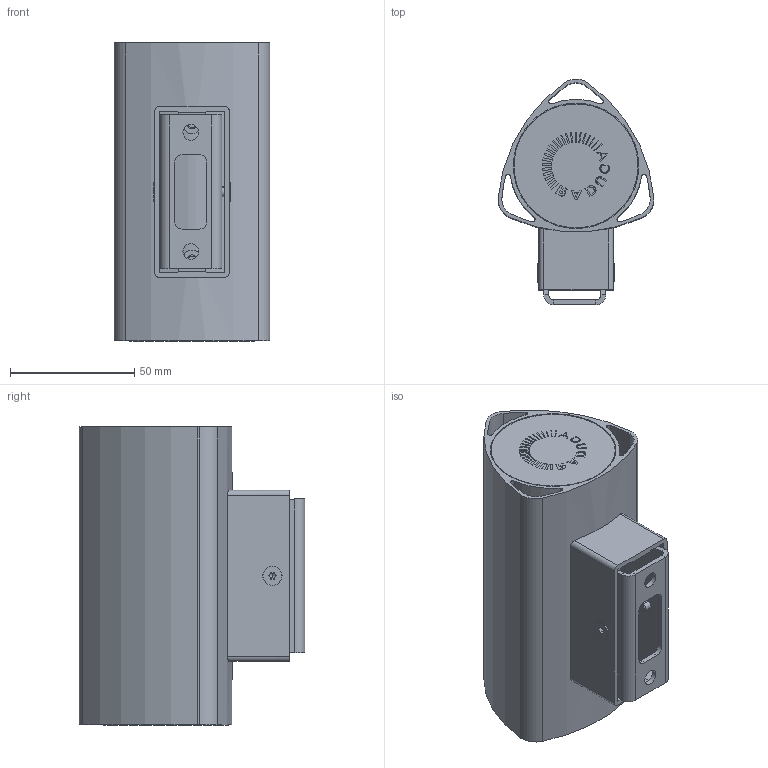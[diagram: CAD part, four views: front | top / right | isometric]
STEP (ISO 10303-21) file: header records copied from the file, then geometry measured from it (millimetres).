
FILE_DESCRIPTION (( 'STEP AP214' ), '1' );
FILE_NAME ('Ñáîðêà3.STEP', '2022-07-29T12:33:11', ( '' ), ( '' ), 'SwSTEP 2.0', 'SolidWorks 2020', '' );
FILE_SCHEMA (( 'AUTOMOTIVE_DESIGN' ));
Length unit declared in the file: millimetre
Products named in the file (7): 栺樏鋋; RAD-S-Qu-3.00.00.03 ﾊ煇鳫; RAD-S-Te-3.00.00.04 Îïîðà; socket countersunk head screw_din_DIN 7991 - M4 x 8 --- 5.6N; 栖闉罻3; RAD-S-Te-3.00.00.01 扻豵鵨_TeD-3_120洵; RAD-S-ClN-3.00.00.04 耱尻腩_娻腓獱
Assembly tree (7 placements, depth 2):
  栖闉罻3
    RAD-S-Te-3.00.00.01 扻豵鵨_TeD-3_120洵
    RAD-S-Qu-3.00.00.03 ﾊ煇鳫
    RAD-S-Te-3.00.00.04 Îïîðà
    RAD-S-ClN-3.00.00.04 耱尻腩_娻腓獱
    栺樏鋋
    socket countersunk head screw_din_DIN 7991 - M4 x 8 --- 5.6N  x2
Bounding box: 62.74 x 90.84 x 120.1 mm (x, y, z)
Volume: 315726.4 mm3; surface area: 76173.7 mm2
Topology: 7 solids, 7 shells, 418 faces, 1052 edges, 682 vertices
Faces by surface type: plane 212, bspline 99, cylinder 83, cone 20, torus 4
Entity records: 13237 total; most frequent: CARTESIAN_POINT 3931, ORIENTED_EDGE 1988, DIRECTION 1543, EDGE_CURVE 994, VERTEX_POINT 651, LINE 609, VECTOR 609, AXIS2_PLACEMENT_3D 467
